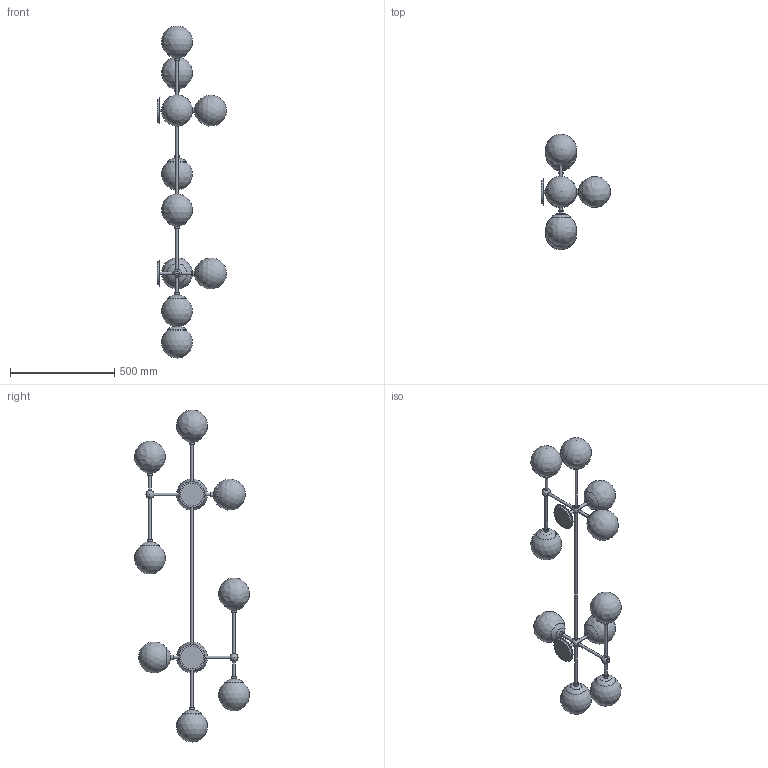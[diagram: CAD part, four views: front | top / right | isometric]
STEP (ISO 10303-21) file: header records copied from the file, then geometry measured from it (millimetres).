
FILE_DESCRIPTION(/* description */ (''),/* implementation_level */ '2;1');
FILE_NAME(/* name */ 'T:\B571 Globe Armstrong Flush\Pliki bryłowe handlowe\B571 Armstrong 3D files_na stronę\B571 Armstrong.stp',/* time_stamp */ '2022-02-02T16:05:27+01:00',/* author */ ('Mariusz Awariusz'),/* organization */ (''),/* preprocessor_version */ 'ST-DEVELOPER v18.1',/* originating_system */ 'Autodesk Inventor 2022',/* authorisation */ '');
FILE_SCHEMA (('AUTOMOTIVE_DESIGN { 1 0 10303 214 3 1 1 }'));
Length unit declared in the file: millimetre
Products named in the file (1): B571 Globe Armstrong Flush CE_v1_na potrzeby plików 3D_2_jako część_
korpusy bryłowe
Bounding box: 331.47 x 551.46 x 1591.63 mm (x, y, z)
Volume: 2202972.1 mm3; surface area: 1766984.7 mm2
Topology: 57 solids, 57 shells, 441 faces, 767 edges, 494 vertices
Faces by surface type: plane 156, cylinder 145, cone 72, sphere 28, torus 20, bspline 20
Full cylindrical faces by diameter (mm): 11.6 x24, 11.917 x2, 13 x39, 13.5 x16, 16 x20, 20.6 x4, 22 x14, 23.1 x4, 23.5 x4, 50.221 x10, 110 x2, 125 x2
Entity records: 11500 total; most frequent: CARTESIAN_POINT 2629, DIRECTION 2093, ORIENTED_EDGE 1486, AXIS2_PLACEMENT_3D 934, EDGE_CURVE 743, EDGE_LOOP 539, CIRCLE 512, VERTEX_POINT 494
